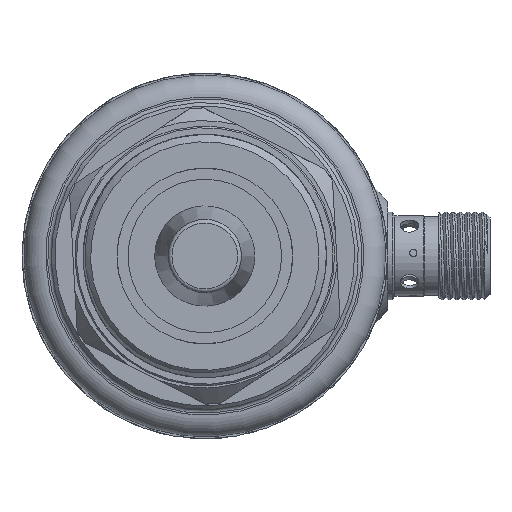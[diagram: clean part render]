
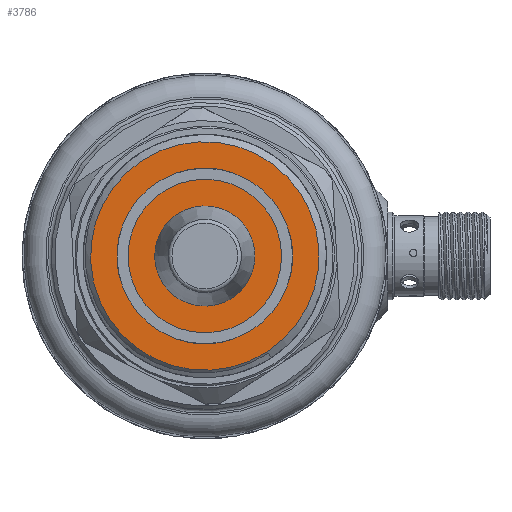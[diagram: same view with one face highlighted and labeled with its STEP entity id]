
A CAD part, front view. The second image highlights one B-rep face of the part: STEP entity #3786.
In plain terms, the highlighted planar face has unit normal (0, -1, 0) as drawn and (-1, 0, 0) by its records, which use the part's own axes.
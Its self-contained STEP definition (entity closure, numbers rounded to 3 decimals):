
#245 = FACE_BOUND ( 'NONE', #1854, .T. ) ;
#266 = DIRECTION ( 'NONE',  ( 0., 0., -1. ) ) ;
#614 = VERTEX_POINT ( 'NONE', #9135 ) ;
#1156 = CARTESIAN_POINT ( 'NONE',  ( 2.5, 0., -0.275 ) ) ;
#1854 = EDGE_LOOP ( 'NONE', ( #7438 ) ) ;
#2372 = DIRECTION ( 'NONE',  ( -1., 0., 0. ) ) ;
#2566 = EDGE_CURVE ( 'NONE', #6970, #6970, #3496, .T. ) ;
#2981 = EDGE_LOOP ( 'NONE', ( #6525 ) ) ;
#3496 = CIRCLE ( 'NONE', #12628, 6.85 ) ;
#3765 = AXIS2_PLACEMENT_3D ( 'NONE', #1156, #13377, #5702 ) ;
#3786 = ADVANCED_FACE ( 'NONE', ( #11759, #245 ), #4509, .F. ) ;
#3889 = DIRECTION ( 'NONE',  ( 0., 0., -1. ) ) ;
#4509 = PLANE ( 'NONE',  #3765 ) ;
#4949 = CARTESIAN_POINT ( 'NONE',  ( 2.5, 0., -0.275 ) ) ;
#5376 = AXIS2_PLACEMENT_3D ( 'NONE', #9817, #2372, #266 ) ;
#5702 = DIRECTION ( 'NONE',  ( 0., 0., -1. ) ) ;
#6525 = ORIENTED_EDGE ( 'NONE', *, *, #13080, .T. ) ;
#6970 = VERTEX_POINT ( 'NONE', #12185 ) ;
#7438 = ORIENTED_EDGE ( 'NONE', *, *, #2566, .T. ) ;
#9135 = CARTESIAN_POINT ( 'NONE',  ( 2.5, 0., -15.901 ) ) ;
#9817 = CARTESIAN_POINT ( 'NONE',  ( 2.5, 0., -0.275 ) ) ;
#11759 = FACE_OUTER_BOUND ( 'NONE', #2981, .T. ) ;
#12075 = CIRCLE ( 'NONE', #5376, 15.626 ) ;
#12185 = CARTESIAN_POINT ( 'NONE',  ( 2.5, 0., -7.125 ) ) ;
#12628 = AXIS2_PLACEMENT_3D ( 'NONE', #4949, #13464, #3889 ) ;
#13080 = EDGE_CURVE ( 'NONE', #614, #614, #12075, .T. ) ;
#13377 = DIRECTION ( 'NONE',  ( 1., 0., 0. ) ) ;
#13464 = DIRECTION ( 'NONE',  ( 1., 0., 0. ) ) ;
